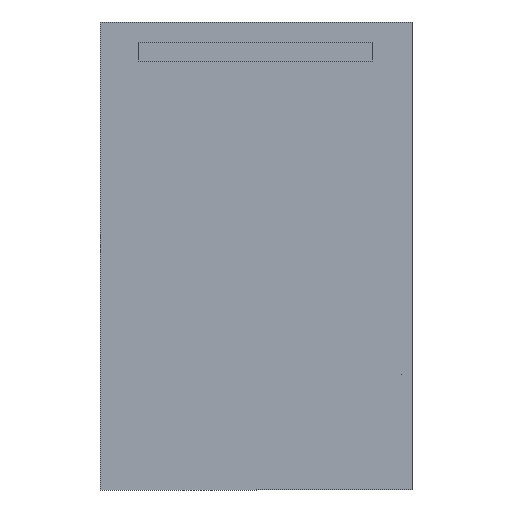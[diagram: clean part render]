
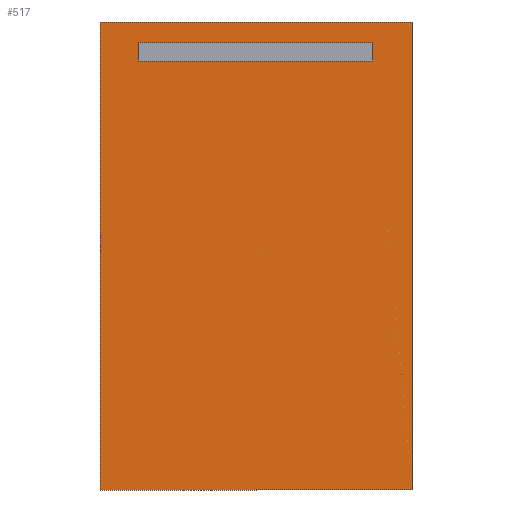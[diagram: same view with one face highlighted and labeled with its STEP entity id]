
A CAD part, front view. The second image highlights one B-rep face of the part: STEP entity #517.
In plain terms, the highlighted planar face has unit normal (0, -1, 0).
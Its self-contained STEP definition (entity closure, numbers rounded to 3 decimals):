
#47=FACE_BOUND('',#92,.T.);
#62=FACE_OUTER_BOUND('',#91,.T.);
#91=EDGE_LOOP('',(#359,#360,#361,#362));
#92=EDGE_LOOP('',(#363,#364,#365,#366));
#115=LINE('',#766,#159);
#119=LINE('',#774,#163);
#122=LINE('',#780,#166);
#125=LINE('',#785,#169);
#127=LINE('',#791,#171);
#131=LINE('',#799,#175);
#134=LINE('',#805,#178);
#137=LINE('',#810,#181);
#159=VECTOR('',#614,10.);
#163=VECTOR('',#620,10.);
#166=VECTOR('',#625,10.);
#169=VECTOR('',#630,10.);
#171=VECTOR('',#636,10.);
#175=VECTOR('',#642,10.);
#178=VECTOR('',#647,10.);
#181=VECTOR('',#652,10.);
#203=VERTEX_POINT('',#764);
#204=VERTEX_POINT('',#765);
#207=VERTEX_POINT('',#773);
#209=VERTEX_POINT('',#779);
#211=VERTEX_POINT('',#789);
#212=VERTEX_POINT('',#790);
#215=VERTEX_POINT('',#798);
#217=VERTEX_POINT('',#804);
#251=EDGE_CURVE('',#203,#204,#115,.T.);
#255=EDGE_CURVE('',#207,#203,#119,.T.);
#258=EDGE_CURVE('',#209,#207,#122,.T.);
#261=EDGE_CURVE('',#204,#209,#125,.T.);
#263=EDGE_CURVE('',#211,#212,#127,.T.);
#267=EDGE_CURVE('',#215,#211,#131,.T.);
#270=EDGE_CURVE('',#217,#215,#134,.T.);
#273=EDGE_CURVE('',#212,#217,#137,.T.);
#359=ORIENTED_EDGE('',*,*,#273,.F.);
#360=ORIENTED_EDGE('',*,*,#263,.F.);
#361=ORIENTED_EDGE('',*,*,#267,.F.);
#362=ORIENTED_EDGE('',*,*,#270,.F.);
#363=ORIENTED_EDGE('',*,*,#251,.T.);
#364=ORIENTED_EDGE('',*,*,#261,.T.);
#365=ORIENTED_EDGE('',*,*,#258,.T.);
#366=ORIENTED_EDGE('',*,*,#255,.T.);
#465=PLANE('',#567);
#517=ADVANCED_FACE('',(#62,#47),#465,.F.);
#567=AXIS2_PLACEMENT_3D('',#813,#656,#657);
#614=DIRECTION('',(0.,0.,-1.));
#620=DIRECTION('',(1.,0.,0.));
#625=DIRECTION('',(0.,0.,1.));
#630=DIRECTION('',(-1.,0.,0.));
#636=DIRECTION('',(0.,0.,1.));
#642=DIRECTION('',(-1.,0.,0.));
#647=DIRECTION('',(0.,0.,-1.));
#652=DIRECTION('',(1.,0.,0.));
#656=DIRECTION('center_axis',(0.,1.,0.));
#657=DIRECTION('ref_axis',(0.,0.,1.));
#764=CARTESIAN_POINT('',(225.,-26.,860.));
#765=CARTESIAN_POINT('',(225.,-26.,825.));
#766=CARTESIAN_POINT('',(225.,-26.,655.));
#773=CARTESIAN_POINT('',(-225.,-26.,860.));
#774=CARTESIAN_POINT('',(-112.5,-26.,860.));
#779=CARTESIAN_POINT('',(-225.,-26.,825.));
#780=CARTESIAN_POINT('',(-225.,-26.,637.5));
#785=CARTESIAN_POINT('',(112.5,-26.,825.));
#789=CARTESIAN_POINT('',(-300.,-26.,0.));
#790=CARTESIAN_POINT('',(-300.,-26.,900.));
#791=CARTESIAN_POINT('',(-300.,-26.,0.));
#798=CARTESIAN_POINT('',(300.,-26.,0.));
#799=CARTESIAN_POINT('',(300.,-26.,0.));
#804=CARTESIAN_POINT('',(300.,-26.,900.));
#805=CARTESIAN_POINT('',(300.,-26.,900.));
#810=CARTESIAN_POINT('',(-300.,-26.,900.));
#813=CARTESIAN_POINT('Origin',(0.,-26.,450.));
